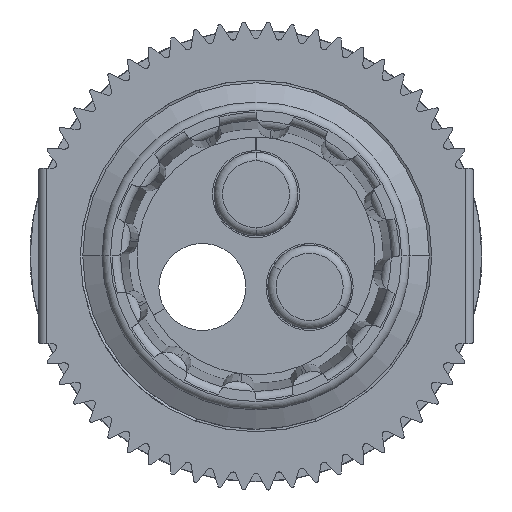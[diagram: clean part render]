
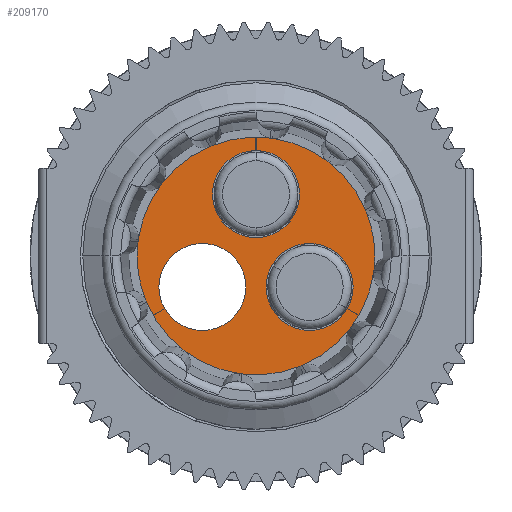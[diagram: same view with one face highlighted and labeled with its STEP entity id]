
A CAD part, left-side view. The second image highlights one B-rep face of the part: STEP entity #209170.
In plain terms, the highlighted planar face has unit normal (-1, 0, 0) as drawn and (0, 0, -1) by its records, which use the part's own axes.
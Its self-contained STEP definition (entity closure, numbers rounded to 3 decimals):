
#207390=CARTESIAN_POINT('',(45.144,47.87,0.));
#207400=VERTEX_POINT('',#207390);
#207480=CARTESIAN_POINT('',(44.798,46.574,0.));
#207490=VERTEX_POINT('',#207480);
#207520=CARTESIAN_POINT('',(42.544,47.87,0.));
#207530=DIRECTION('',(-0.,0.,-1.));
#207540=DIRECTION('',(-0.867,0.498,0.));
#207550=AXIS2_PLACEMENT_3D('',#207520,#207530,#207540);
#207560=CIRCLE('',#207550,2.6);
#207570=EDGE_CURVE('',#207400,#207490,#207560,.T.);
#207820=CARTESIAN_POINT('',(46.266,45.716,0.));
#207830=VERTEX_POINT('',#207820);
#207860=CARTESIAN_POINT('',(39.34,49.72,0.));
#207870=DIRECTION('',(0.,-0.,-1.));
#207880=DIRECTION('',(0.866,-0.501,0.));
#207890=AXIS2_PLACEMENT_3D('',#207860,#207870,#207880);
#207900=CIRCLE('',#207890,8.);
#207910=CARTESIAN_POINT('',(32.414,45.716,0.));
#207920=VERTEX_POINT('',#207910);
#207930=EDGE_CURVE('',#207830,#207920,#207900,.T.);
#208040=CARTESIAN_POINT('',(0.,0.,0.));
#208050=DIRECTION('',(0.,0.,1.));
#208060=DIRECTION('',(1.,0.,0.));
#208070=AXIS2_PLACEMENT_3D('',#208040,#208050,#208060);
#208080=PLANE('',#208070);
#208090=CARTESIAN_POINT('',(46.271,45.724,0.));
#208100=DIRECTION('',(-0.866,0.5,0.));
#208110=VECTOR('',#208100,1.);
#208120=LINE('',#208090,#208110);
#208130=CARTESIAN_POINT('',(46.271,45.724,
0.));
#208140=VERTEX_POINT('',#208130);
#208150=EDGE_CURVE('',#208140,#207490,#208120,.T.);
#208160=ORIENTED_EDGE('',*,*,#208150,.T.);
#208170=CARTESIAN_POINT('',(39.34,49.72,0.));
#208180=DIRECTION('',(0.,0.,-1.));
#208190=DIRECTION('',(0.001,1.,0.));
#208200=AXIS2_PLACEMENT_3D('',#208170,#208180,#208190);
#208210=CIRCLE('',#208200,8.);
#208220=CARTESIAN_POINT('',(39.345,57.72,0.));
#208230=VERTEX_POINT('',#208220);
#208240=EDGE_CURVE('',#208230,#208140,#208210,.T.);
#208250=ORIENTED_EDGE('',*,*,#208240,.T.);
#208260=CARTESIAN_POINT('',(39.345,57.72,0.));
#208270=DIRECTION('',(0.,-1.,0.));
#208280=VECTOR('',#208270,1.);
#208290=LINE('',#208260,#208280);
#208300=CARTESIAN_POINT('',(39.345,56.02,0.));
#208310=VERTEX_POINT('',#208300);
#208320=EDGE_CURVE('',#208230,#208310,#208290,.T.);
#208330=ORIENTED_EDGE('',*,*,#208320,.F.);
#208340=CARTESIAN_POINT('',(39.34,53.42,0.));
#208350=DIRECTION('',(0.,-0.,-1.));
#208360=DIRECTION('',(0.002,-1.,0.));
#208370=AXIS2_PLACEMENT_3D('',#208340,#208350,#208360);
#208380=CIRCLE('',#208370,2.6);
#208390=CARTESIAN_POINT('',(41.94,53.42,0.));
#208400=VERTEX_POINT('',#208390);
#208410=EDGE_CURVE('',#208310,#208400,#208380,.T.);
#208420=ORIENTED_EDGE('',*,*,#208410,.F.);
#208430=CARTESIAN_POINT('',(36.74,53.42,0.));
#208440=VERTEX_POINT('',#208430);
#208450=EDGE_CURVE('',#208400,#208440,#208380,.T.);
#208460=ORIENTED_EDGE('',*,*,#208450,.F.);
#208470=CARTESIAN_POINT('',(39.335,56.02,0.));
#208480=VERTEX_POINT('',#208470);
#208490=EDGE_CURVE('',#208440,#208480,#208380,.T.);
#208500=ORIENTED_EDGE('',*,*,#208490,.F.);
#208510=CARTESIAN_POINT('',(39.335,56.02,0.));
#208520=DIRECTION('',(0.,1.,0.));
#208530=VECTOR('',#208520,1.);
#208540=LINE('',#208510,#208530);
#208550=CARTESIAN_POINT('',(39.335,57.72,0.));
#208560=VERTEX_POINT('',#208550);
#208570=EDGE_CURVE('',#208480,#208560,#208540,.T.);
#208580=ORIENTED_EDGE('',*,*,#208570,.F.);
#208590=CARTESIAN_POINT('',(39.34,49.72,0.));
#208600=DIRECTION('',(-0.,0.,-1.));
#208610=DIRECTION('',(-0.866,-0.499,0.));
#208620=AXIS2_PLACEMENT_3D('',#208590,#208600,#208610);
#208630=CIRCLE('',#208620,8.);
#208640=CARTESIAN_POINT('',(32.409,45.724,0.));
#208650=VERTEX_POINT('',#208640);
#208660=EDGE_CURVE('',#208650,#208560,#208630,.T.);
#208670=ORIENTED_EDGE('',*,*,#208660,.T.);
#208680=CARTESIAN_POINT('',(33.882,46.574,0.));
#208690=DIRECTION('',(-0.866,-0.5,0.));
#208700=VECTOR('',#208690,1.);
#208710=LINE('',#208680,#208700);
#208720=CARTESIAN_POINT('',(33.882,46.574,0.));
#208730=VERTEX_POINT('',#208720);
#208740=EDGE_CURVE('',#208730,#208650,#208710,.T.);
#208750=ORIENTED_EDGE('',*,*,#208740,.T.);
#208760=CARTESIAN_POINT('',(36.136,47.87,0.));
#208770=DIRECTION('',(0.,0.,-1.));
#208780=DIRECTION('',(0.865,0.502,0.));
#208790=AXIS2_PLACEMENT_3D('',#208760,#208770,#208780);
#208800=CIRCLE('',#208790,2.6);
#208810=CARTESIAN_POINT('',(33.536,47.87,0.));
#208820=VERTEX_POINT('',#208810);
#208830=EDGE_CURVE('',#208730,#208820,#208800,.T.);
#208840=ORIENTED_EDGE('',*,*,#208830,.F.);
#208850=CARTESIAN_POINT('',(38.736,47.87,0.));
#208860=VERTEX_POINT('',#208850);
#208870=EDGE_CURVE('',#208820,#208860,#208800,.T.);
#208880=ORIENTED_EDGE('',*,*,#208870,.F.);
#208890=CARTESIAN_POINT('',(33.887,46.566,0.));
#208900=VERTEX_POINT('',#208890);
#208910=EDGE_CURVE('',#208860,#208900,#208800,.T.);
#208920=ORIENTED_EDGE('',*,*,#208910,.F.);
#208930=CARTESIAN_POINT('',(32.414,45.716,0.));
#208940=DIRECTION('',(0.866,0.5,0.));
#208950=VECTOR('',#208940,1.);
#208960=LINE('',#208930,#208950);
#208970=EDGE_CURVE('',#207920,#208900,#208960,.T.);
#208980=ORIENTED_EDGE('',*,*,#208970,.T.);
#208990=ORIENTED_EDGE('',*,*,#207930,.T.);
#209000=CARTESIAN_POINT('',(44.793,46.566,0.));
#209010=DIRECTION('',(0.866,-0.5,0.));
#209020=VECTOR('',#209010,1.);
#209030=LINE('',#209000,#209020);
#209040=CARTESIAN_POINT('',(44.793,46.566,
0.));
#209050=VERTEX_POINT('',#209040);
#209060=EDGE_CURVE('',#209050,#207830,#209030,.T.);
#209070=ORIENTED_EDGE('',*,*,#209060,.T.);
#209080=CARTESIAN_POINT('',(39.944,47.87,0.));
#209090=VERTEX_POINT('',#209080);
#209100=EDGE_CURVE('',#209050,#209090,#207560,.T.);
#209110=ORIENTED_EDGE('',*,*,#209100,.F.);
#209120=EDGE_CURVE('',#209090,#207400,#207560,.T.);
#209130=ORIENTED_EDGE('',*,*,#209120,.F.);
#209140=ORIENTED_EDGE('',*,*,#207570,.F.);
#209150=EDGE_LOOP('',(#209140,#209130,#209110,#209070,#208990,#208980,
#208920,#208880,#208840,#208750,#208670,#208580,#208500,#208460,#208420,
#208330,#208250,#208160));
#209160=FACE_OUTER_BOUND('',#209150,.T.);
#209170=ADVANCED_FACE('',(#209160),#208080,.F.);
